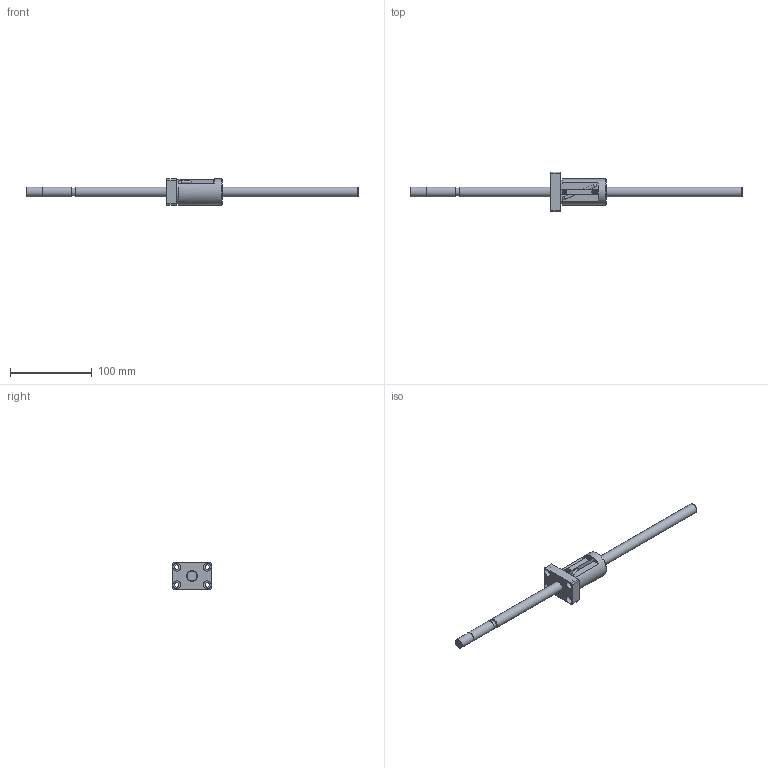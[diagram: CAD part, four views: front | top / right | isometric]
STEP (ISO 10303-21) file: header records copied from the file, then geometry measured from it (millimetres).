
FILE_DESCRIPTION((''),'2;1');
FILE_NAME('D:\製品 (図面)\カタログ用3D\ネジ関連\STEP形式\KBS(C)\KBS(C)1220-405.stp','2010-06-02T09:20:53',('Tsuchiya'),(''),'Autodesk Inventor 10','Autodesk Inventor 10','');
FILE_SCHEMA(('AUTOMOTIVE_DESIGN { 1 0 10303 214 1 1 1 1 }'));
Length unit declared in the file: millimetre
Products named in the file (3): KBS(C)1220-405; KBS(C)1220-4051; KBS(C)1220-4052
Assembly tree (2 placements, depth 2):
  KBS(C)1220-405
    KBS(C)1220-4051
    KBS(C)1220-4052
Bounding box: 405 x 48 x 32 mm (x, y, z)
Volume: 96090.6 mm3; surface area: 30509.9 mm2
Topology: 2 solids, 2 shells, 97 faces, 238 edges, 157 vertices
Faces by surface type: plane 43, cylinder 29, bspline 20, cone 3, torus 2
Full cylindrical faces by diameter (mm): 3.2 x1, 5.5 x4, 5.6 x1, 5.7 x2, 9.5 x5, 11.7 x1, 12 x3, 14 x2, 32 x1
Entity records: 3021 total; most frequent: CARTESIAN_POINT 846, ORIENTED_EDGE 404, DIRECTION 402, EDGE_CURVE 202, EDGE_LOOP 154, AXIS2_PLACEMENT_3D 150, VERTEX_POINT 150, VECTOR 102
